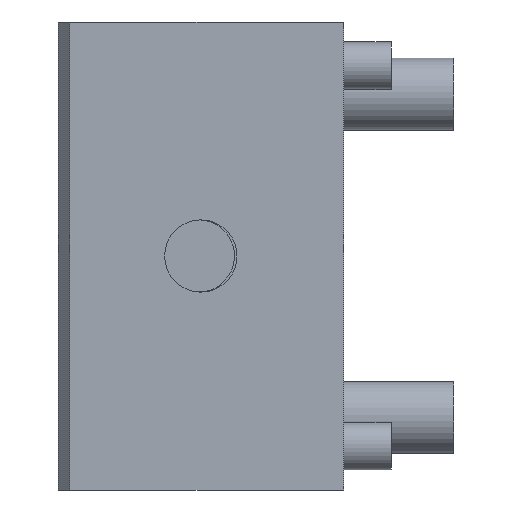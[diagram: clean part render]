
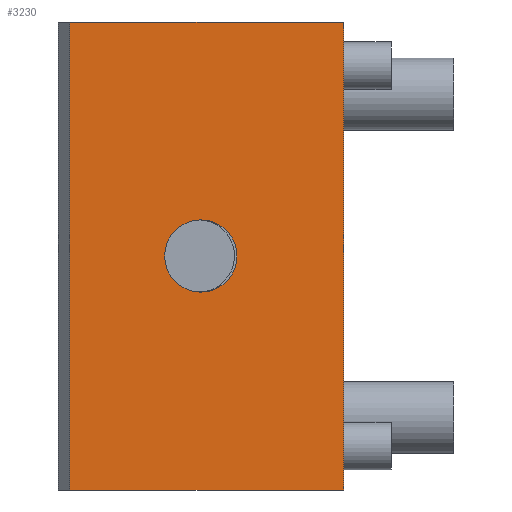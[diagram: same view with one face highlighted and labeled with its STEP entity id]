
A CAD part, left-side view. The second image highlights one B-rep face of the part: STEP entity #3230.
In plain terms, the highlighted planar face has unit normal (-1, 0, 0).
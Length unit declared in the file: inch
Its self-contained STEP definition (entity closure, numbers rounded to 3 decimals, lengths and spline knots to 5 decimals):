
#58 = EDGE_CURVE ( 'NONE', #1355, #559, #349, .T. ) ;
#154 = CARTESIAN_POINT ( 'NONE',  ( -0.4, -0.67, 0.615 ) ) ;
#243 = VECTOR ( 'NONE', #835, 39.37008 ) ;
#286 = DIRECTION ( 'NONE',  ( 0., 0., -1. ) ) ;
#327 = VERTEX_POINT ( 'NONE', #1809 ) ;
#349 = LINE ( 'NONE', #1479, #2974 ) ;
#386 = DIRECTION ( 'NONE',  ( 0., 0., -1. ) ) ;
#401 = VECTOR ( 'NONE', #2002, 39.37008 ) ;
#468 = CARTESIAN_POINT ( 'NONE',  ( -0.4, 0.05, 0.615 ) ) ;
#559 = VERTEX_POINT ( 'NONE', #2727 ) ;
#783 = CARTESIAN_POINT ( 'NONE',  ( -0.4, 0.05, -0.615 ) ) ;
#818 = CARTESIAN_POINT ( 'NONE',  ( -0.4, 0.05, 0.615 ) ) ;
#835 = DIRECTION ( 'NONE',  ( 0., 0., -1. ) ) ;
#1123 = ORIENTED_EDGE ( 'NONE', *, *, #3811, .F. ) ;
#1158 = DIRECTION ( 'NONE',  ( 1., 0., 0. ) ) ;
#1176 = ORIENTED_EDGE ( 'NONE', *, *, #1208, .T. ) ;
#1208 = EDGE_CURVE ( 'NONE', #2848, #559, #1387, .T. ) ;
#1355 = VERTEX_POINT ( 'NONE', #154 ) ;
#1387 = LINE ( 'NONE', #783, #401 ) ;
#1397 = CARTESIAN_POINT ( 'NONE',  ( -0.4, 0.05, -0.615 ) ) ;
#1479 = CARTESIAN_POINT ( 'NONE',  ( -0.4, -0.67, 0.615 ) ) ;
#1597 = VECTOR ( 'NONE', #1655, 39.37008 ) ;
#1655 = DIRECTION ( 'NONE',  ( 0., -1., 0. ) ) ;
#1736 = AXIS2_PLACEMENT_3D ( 'NONE', #2000, #3560, #286 ) ;
#1741 = AXIS2_PLACEMENT_3D ( 'NONE', #818, #1158, #3229 ) ;
#1809 = CARTESIAN_POINT ( 'NONE',  ( -0.4, -0.295, -0.095 ) ) ;
#2000 = CARTESIAN_POINT ( 'NONE',  ( -0.4, -0.295, 0. ) ) ;
#2002 = DIRECTION ( 'NONE',  ( 0., -1., 0. ) ) ;
#2028 = LINE ( 'NONE', #2655, #243 ) ;
#2554 = VERTEX_POINT ( 'NONE', #3210 ) ;
#2565 = EDGE_CURVE ( 'NONE', #327, #327, #3157, .T. ) ;
#2575 = ORIENTED_EDGE ( 'NONE', *, *, #58, .F. ) ;
#2603 = FACE_BOUND ( 'NONE', #3636, .T. ) ;
#2655 = CARTESIAN_POINT ( 'NONE',  ( -0.4, 0.05, 0.615 ) ) ;
#2727 = CARTESIAN_POINT ( 'NONE',  ( -0.4, -0.67, -0.615 ) ) ;
#2848 = VERTEX_POINT ( 'NONE', #1397 ) ;
#2916 = LINE ( 'NONE', #468, #1597 ) ;
#2928 = EDGE_LOOP ( 'NONE', ( #1176, #2575, #1123, #2980 ) ) ;
#2974 = VECTOR ( 'NONE', #386, 39.37008 ) ;
#2980 = ORIENTED_EDGE ( 'NONE', *, *, #3187, .T. ) ;
#3157 = CIRCLE ( 'NONE', #1736, 0.095 ) ;
#3172 = PLANE ( 'NONE',  #1741 ) ;
#3187 = EDGE_CURVE ( 'NONE', #2554, #2848, #2028, .T. ) ;
#3210 = CARTESIAN_POINT ( 'NONE',  ( -0.4, 0.05, 0.615 ) ) ;
#3229 = DIRECTION ( 'NONE',  ( 0., 1., 0. ) ) ;
#3230 = ADVANCED_FACE ( 'NONE', ( #2603, #3247 ), #3172, .F. ) ;
#3247 = FACE_OUTER_BOUND ( 'NONE', #2928, .T. ) ;
#3373 = ORIENTED_EDGE ( 'NONE', *, *, #2565, .T. ) ;
#3560 = DIRECTION ( 'NONE',  ( 1., 0., 0. ) ) ;
#3636 = EDGE_LOOP ( 'NONE', ( #3373 ) ) ;
#3811 = EDGE_CURVE ( 'NONE', #2554, #1355, #2916, .T. ) ;
